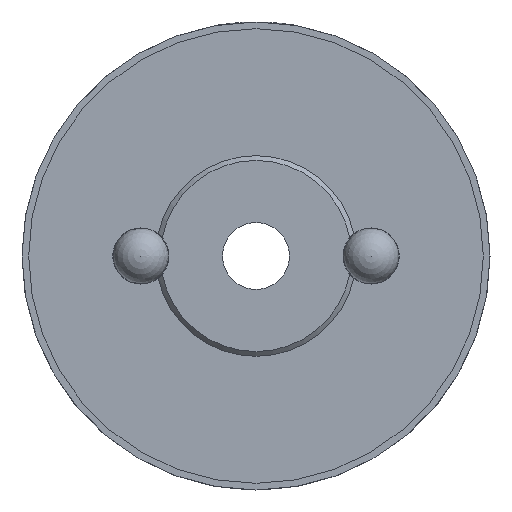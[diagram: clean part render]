
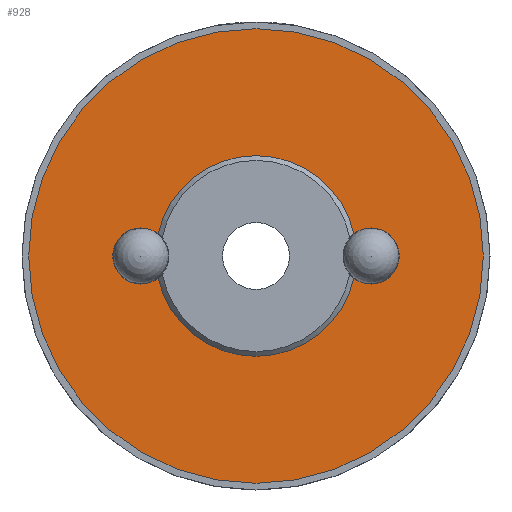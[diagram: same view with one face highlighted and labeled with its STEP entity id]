
A CAD part, left-side view. The second image highlights one B-rep face of the part: STEP entity #928.
In plain terms, the highlighted planar face has unit normal (-1, 0, 0).
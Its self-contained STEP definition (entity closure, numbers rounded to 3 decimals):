
#44=PLANE('',#1016);
#129=CIRCLE('',#1012,3.);
#130=CIRCLE('',#1014,6.8);
#132=CIRCLE('',#1017,3.);
#133=CIRCLE('',#1018,0.84);
#134=CIRCLE('',#1019,0.84);
#236=ORIENTED_EDGE('',*,*,#484,.F.);
#237=ORIENTED_EDGE('',*,*,#485,.T.);
#238=ORIENTED_EDGE('',*,*,#473,.F.);
#239=ORIENTED_EDGE('',*,*,#486,.T.);
#240=ORIENTED_EDGE('',*,*,#482,.T.);
#473=EDGE_CURVE('',#602,#603,#129,.T.);
#482=EDGE_CURVE('',#611,#611,#130,.T.);
#484=EDGE_CURVE('',#613,#614,#132,.T.);
#485=EDGE_CURVE('',#613,#603,#133,.T.);
#486=EDGE_CURVE('',#602,#614,#134,.T.);
#602=VERTEX_POINT('',#1425);
#603=VERTEX_POINT('',#1427);
#611=VERTEX_POINT('',#1457);
#613=VERTEX_POINT('',#1462);
#614=VERTEX_POINT('',#1463);
#756=EDGE_LOOP('',(#236,#237,#238,#239));
#757=EDGE_LOOP('',(#240));
#836=FACE_BOUND('',#756,.T.);
#837=FACE_BOUND('',#757,.T.);
#928=ADVANCED_FACE('',(#836,#837),#44,.F.);
#1012=AXIS2_PLACEMENT_3D('',#1426,#1142,#1143);
#1014=AXIS2_PLACEMENT_3D('',#1456,#1150,#1151);
#1016=AXIS2_PLACEMENT_3D('',#1460,#1154,#1155);
#1017=AXIS2_PLACEMENT_3D('',#1461,#1156,#1157);
#1018=AXIS2_PLACEMENT_3D('',#1464,#1158,#1159);
#1019=AXIS2_PLACEMENT_3D('',#1465,#1160,#1161);
#1142=DIRECTION('',(-1.,0.,0.));
#1143=DIRECTION('',(0.,0.,1.));
#1150=DIRECTION('',(-1.,0.,0.));
#1151=DIRECTION('',(0.,0.,1.));
#1154=DIRECTION('',(1.,0.,0.));
#1155=DIRECTION('',(0.,0.,-1.));
#1156=DIRECTION('',(-1.,0.,0.));
#1157=DIRECTION('',(0.,0.,1.));
#1158=DIRECTION('',(1.,0.,0.));
#1159=DIRECTION('',(0.,-1.,0.));
#1160=DIRECTION('',(1.,0.,0.));
#1161=DIRECTION('',(0.,1.,0.));
#1425=CARTESIAN_POINT('',(-12.5,-2.926,0.661));
#1426=CARTESIAN_POINT('',(-12.5,0.,0.));
#1427=CARTESIAN_POINT('',(-12.5,2.926,0.661));
#1456=CARTESIAN_POINT('',(-12.5,0.,0.));
#1457=CARTESIAN_POINT('',(-12.5,0.,6.8));
#1460=CARTESIAN_POINT('',(-12.5,6.8,0.));
#1461=CARTESIAN_POINT('',(-12.5,0.,0.));
#1462=CARTESIAN_POINT('',(-12.5,2.926,-0.661));
#1463=CARTESIAN_POINT('',(-12.5,-2.926,-0.661));
#1464=CARTESIAN_POINT('',(-12.5,3.445,0.));
#1465=CARTESIAN_POINT('',(-12.5,-3.445,0.));
